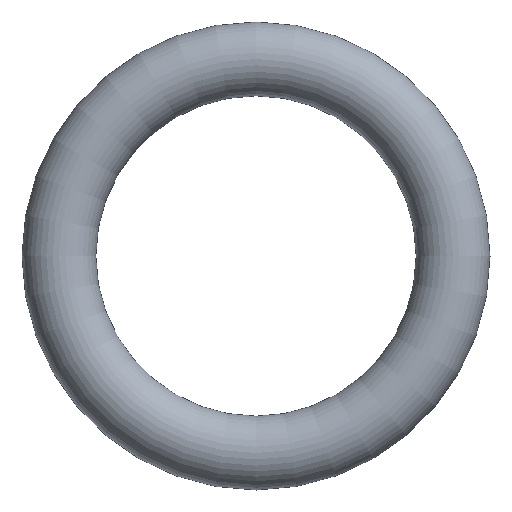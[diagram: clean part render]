
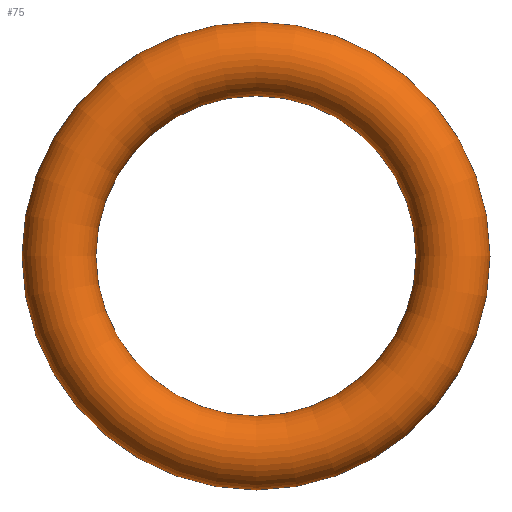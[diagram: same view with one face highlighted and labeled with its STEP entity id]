
A CAD part, front view. The second image highlights one B-rep face of the part: STEP entity #75.
In plain terms, the highlighted toroidal (fillet/blend) face has major radius 4 mm and minor radius 0.75 mm.
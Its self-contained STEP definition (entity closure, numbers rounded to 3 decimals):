
#75 = ADVANCED_FACE( '', ( #77 ), #78, .T. );
#77 = FACE_BOUND( '', #79, .T. );
#78 = TOROIDAL_SURFACE( '', #80, 4., 0.75 );
#79 = VERTEX_LOOP( '', #81 );
#80 = AXIS2_PLACEMENT_3D( '', #82, #83, #84 );
#81 = VERTEX_POINT( '', #85 );
#82 = CARTESIAN_POINT( '', ( 0., 0., 0. ) );
#83 = DIRECTION( '', ( 0., -1., 0. ) );
#84 = DIRECTION( '', ( 0., 0., -1. ) );
#85 = CARTESIAN_POINT( '', ( 0., 0., -4.75 ) );
